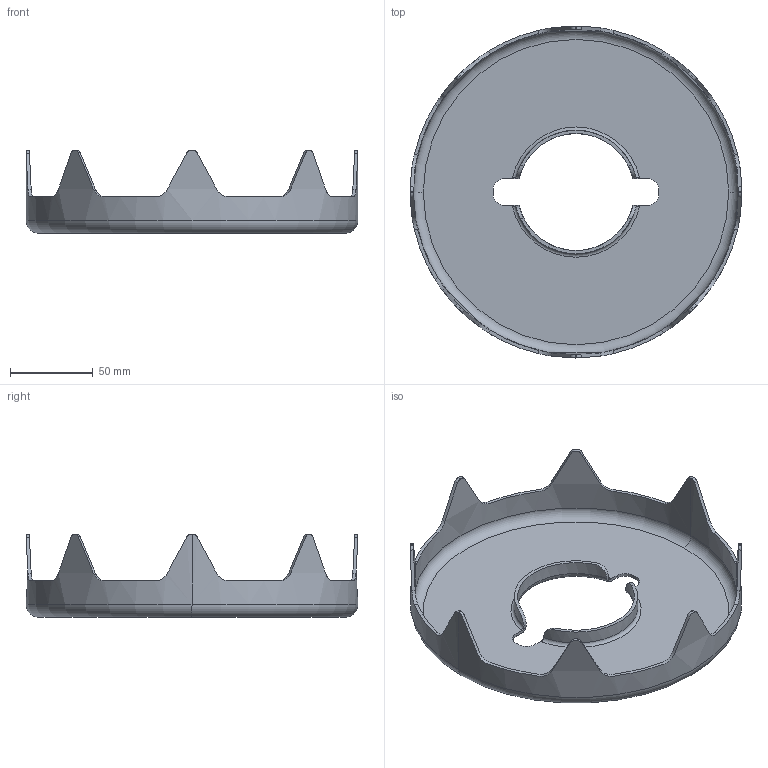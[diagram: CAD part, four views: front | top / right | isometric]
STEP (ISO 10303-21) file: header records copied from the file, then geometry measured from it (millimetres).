
FILE_DESCRIPTION (( 'STEP AP203' ), '1' );
FILE_NAME ('40102.STEP', '2020-12-16T09:24:05', ( '' ), ( '' ), 'SwSTEP 2.0', 'SolidWorks 2020', '' );
FILE_SCHEMA (( 'CONFIG_CONTROL_DESIGN' ));
Length unit declared in the file: millimetre
Products named in the file (1): 40102
Bounding box: 200 x 200 x 50 mm (x, y, z)
Volume: 87331.4 mm3; surface area: 89841.9 mm2
Topology: 1 solids, 1 shells, 649 faces, 1764 edges, 1172 vertices
Faces by surface type: plane 405, bspline 188, cylinder 48, torus 8
Entity records: 30613 total; most frequent: CARTESIAN_POINT 15600, ORIENTED_EDGE 3528, DIRECTION 2284, EDGE_CURVE 1764, VECTOR 1200, LINE 1200, VERTEX_POINT 1172, EDGE_LOOP 706
